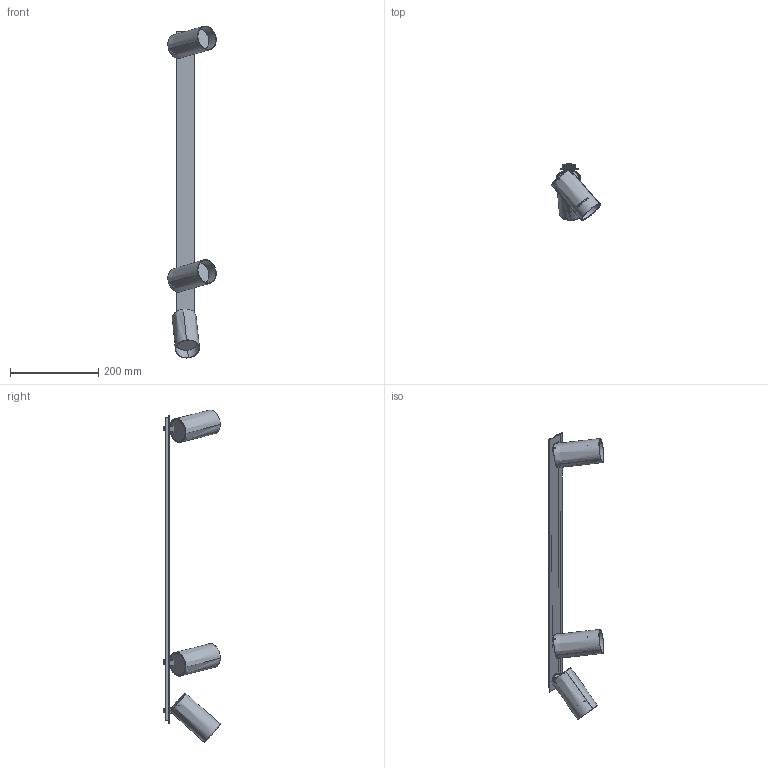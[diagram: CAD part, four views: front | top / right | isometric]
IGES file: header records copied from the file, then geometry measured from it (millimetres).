
Start section: SolidWorks IGES file using analytic representation for surfaces
Global section: file name: Z:\Modele 3D_WWW\_KOLEKCJE_WWW\MONO\MONO-SURFACE\MONO-SURFACE-III-BRASS-7746\MONO-SURFACE-III-BRASS-7746.IGS; native system: SolidWorks 2021; preprocessor: SolidWorks 2021; author: gabriela.tworek; date: 210818.075150; units: millimetre
Bounding box: 109.6 x 127.94 x 753.07 mm (x, y, z)
Surface area: 268526.4 mm2 (no closed solid volume)
Topology: 0 solids, 0 shells, 919 faces, 12337 edges, 12337 vertices
Faces by surface type: bspline 499, revolution 420
